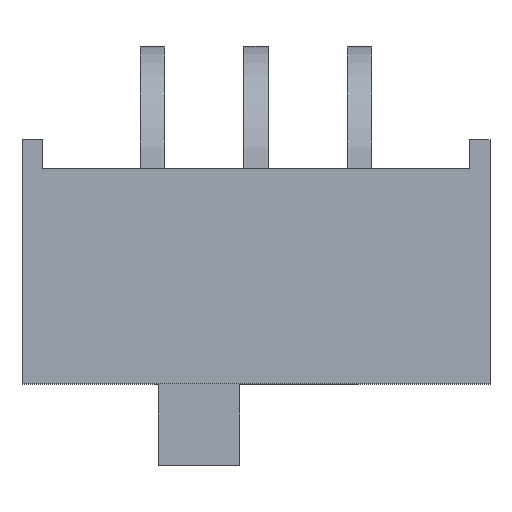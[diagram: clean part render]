
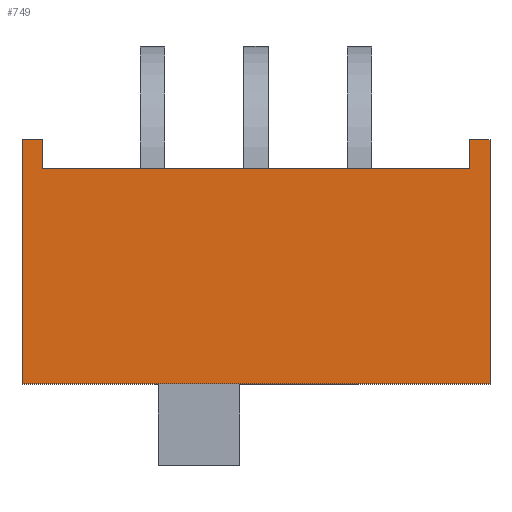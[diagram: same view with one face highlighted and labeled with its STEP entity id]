
A CAD part, top view. The second image highlights one B-rep face of the part: STEP entity #749.
In plain terms, the highlighted planar face has unit normal (0, 0, 1).
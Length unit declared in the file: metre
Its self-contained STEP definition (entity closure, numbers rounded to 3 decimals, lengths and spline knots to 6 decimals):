
#24=PLANE('',#945);
#77=LINE('',#1253,#167);
#85=LINE('',#1270,#175);
#91=LINE('',#1282,#181);
#92=LINE('',#1284,#182);
#93=LINE('',#1286,#183);
#94=LINE('',#1287,#184);
#95=LINE('',#1289,#185);
#96=LINE('',#1291,#186);
#167=VECTOR('',#1052,1.);
#175=VECTOR('',#1062,1.);
#181=VECTOR('',#1070,1.);
#182=VECTOR('',#1071,1.);
#183=VECTOR('',#1072,1.);
#184=VECTOR('',#1073,1.);
#185=VECTOR('',#1074,1.);
#186=VECTOR('',#1075,1.);
#315=ORIENTED_EDGE('',*,*,#469,.F.);
#316=ORIENTED_EDGE('',*,*,#483,.F.);
#317=ORIENTED_EDGE('',*,*,#484,.F.);
#318=ORIENTED_EDGE('',*,*,#485,.T.);
#319=ORIENTED_EDGE('',*,*,#477,.T.);
#320=ORIENTED_EDGE('',*,*,#486,.F.);
#321=ORIENTED_EDGE('',*,*,#487,.T.);
#322=ORIENTED_EDGE('',*,*,#488,.T.);
#469=EDGE_CURVE('',#559,#560,#77,.T.);
#477=EDGE_CURVE('',#568,#567,#85,.T.);
#483=EDGE_CURVE('',#573,#559,#91,.T.);
#484=EDGE_CURVE('',#574,#573,#92,.T.);
#485=EDGE_CURVE('',#574,#568,#93,.T.);
#486=EDGE_CURVE('',#575,#567,#94,.T.);
#487=EDGE_CURVE('',#575,#576,#95,.T.);
#488=EDGE_CURVE('',#576,#560,#96,.T.);
#559=VERTEX_POINT('',#1252);
#560=VERTEX_POINT('',#1254);
#567=VERTEX_POINT('',#1269);
#568=VERTEX_POINT('',#1271);
#573=VERTEX_POINT('',#1283);
#574=VERTEX_POINT('',#1285);
#575=VERTEX_POINT('',#1288);
#576=VERTEX_POINT('',#1290);
#633=EDGE_LOOP('',(#315,#316,#317,#318,#319,#320,#321,#322));
#679=FACE_BOUND('',#633,.T.);
#749=ADVANCED_FACE('',(#679),#24,.T.);
#945=AXIS2_PLACEMENT_3D('',#1281,#1068,#1069);
#1052=DIRECTION('',(1.,0.,0.));
#1062=DIRECTION('',(1.,0.,0.));
#1068=DIRECTION('',(0.,0.,1.));
#1069=DIRECTION('',(1.,0.,0.));
#1070=DIRECTION('',(0.,-1.,0.));
#1071=DIRECTION('',(1.,0.,0.));
#1072=DIRECTION('',(0.,-1.,0.));
#1073=DIRECTION('',(0.,-1.,0.));
#1074=DIRECTION('',(-1.,0.,0.));
#1075=DIRECTION('',(0.,-1.,0.));
#1252=CARTESIAN_POINT('',(-0.00525,0.,0.0042));
#1253=CARTESIAN_POINT('',(0.,0.,0.0042));
#1254=CARTESIAN_POINT('',(0.00525,0.,0.0042));
#1269=CARTESIAN_POINT('',(0.00575,-0.0053,0.0042));
#1270=CARTESIAN_POINT('',(0.,-0.0053,0.0042));
#1271=CARTESIAN_POINT('',(-0.00575,-0.0053,0.0042));
#1281=CARTESIAN_POINT('',(0.,-0.00265,0.0042));
#1282=CARTESIAN_POINT('',(-0.00525,-0.00265,0.0042));
#1283=CARTESIAN_POINT('',(-0.00525,0.0007,0.0042));
#1284=CARTESIAN_POINT('',(-0.00575,0.0007,0.0042));
#1285=CARTESIAN_POINT('',(-0.00575,0.0007,0.0042));
#1286=CARTESIAN_POINT('',(-0.00575,-0.00265,0.0042));
#1287=CARTESIAN_POINT('',(0.00575,-0.00265,0.0042));
#1288=CARTESIAN_POINT('',(0.00575,0.0007,0.0042));
#1289=CARTESIAN_POINT('',(0.00575,0.0007,0.0042));
#1290=CARTESIAN_POINT('',(0.00525,0.0007,0.0042));
#1291=CARTESIAN_POINT('',(0.00525,-0.00265,0.0042));
